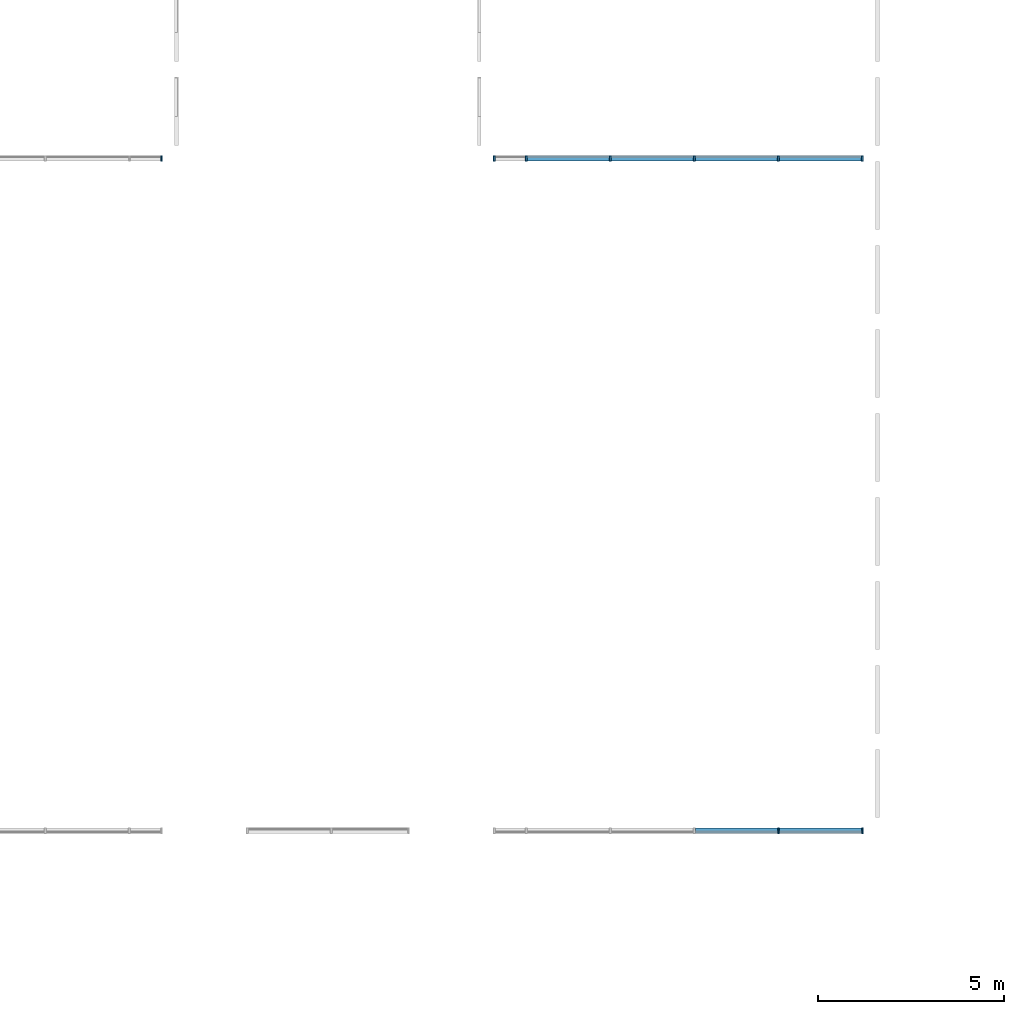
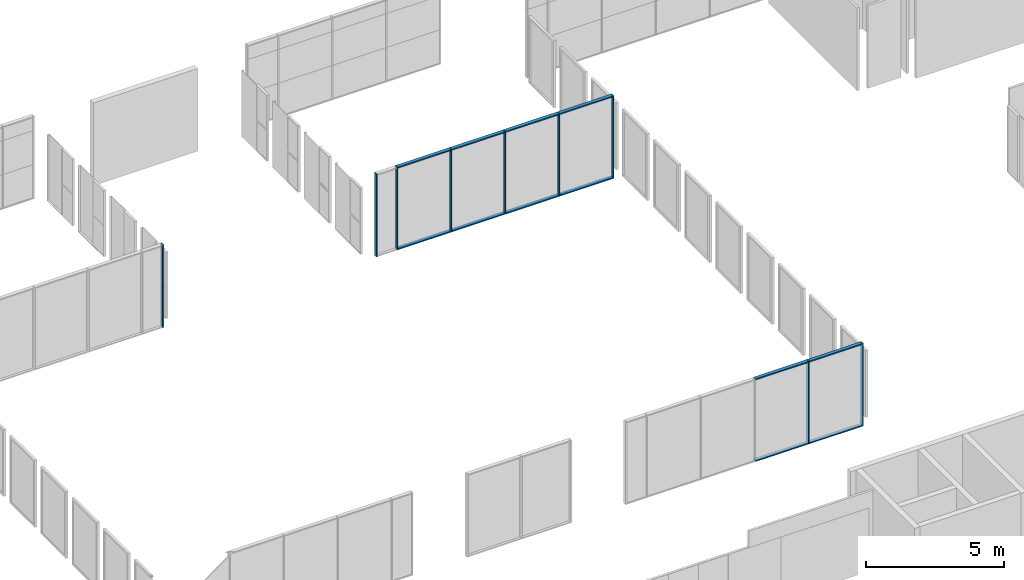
# One storey, part 2 of 15: 21 members, 3 elements without a shape of their own.
"""IFC2X3 building model written with IfcOpenShell, lengths in millimetres."""

from ifc_helpers import new_model, entity, si_unit, converted_unit, derived_unit, direction, frame, origin, origin_2d_with_axis, place, context, subcontext, project, spatial, rectangle, extrude, source, transform, mapped, material, type_object, type_shapes, element, aggregate, save


model = new_model("IFC2X3")

# Units and contexts
model_context = context("Model", 3, precision=0.01, world=origin(), true_north=direction((6.12303176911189e-17, 1.0)))
body_context = subcontext(model_context, "Body", "Model", "MODEL_VIEW")
ifc_project = project(units=[si_unit("LENGTHUNIT", "METRE", prefix="MILLI"), si_unit("AREAUNIT", "SQUARE_METRE"), si_unit("VOLUMEUNIT", "CUBIC_METRE"), converted_unit("PLANEANGLEUNIT", "DEGREE", entity("IfcRatioMeasure", 0.0174532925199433), si_unit("PLANEANGLEUNIT", "RADIAN"), dimensions=[0, 0, 0, 0, 0, 0, 0]), si_unit("MASSUNIT", "GRAM", prefix="KILO"), derived_unit("MASSDENSITYUNIT", [(si_unit("MASSUNIT", "GRAM", prefix="KILO"), 1), (si_unit("LENGTHUNIT", "METRE"), -3)]), derived_unit("MOMENTOFINERTIAUNIT", [(si_unit("LENGTHUNIT", "METRE"), 4)]), si_unit("TIMEUNIT", "SECOND"), si_unit("FREQUENCYUNIT", "HERTZ"), si_unit("THERMODYNAMICTEMPERATUREUNIT", "DEGREE_CELSIUS"), derived_unit("THERMALTRANSMITTANCEUNIT", [(si_unit("MASSUNIT", "GRAM", prefix="KILO"), 1), (si_unit("THERMODYNAMICTEMPERATUREUNIT", "KELVIN"), -1), (si_unit("TIMEUNIT", "SECOND"), -3)]), derived_unit("VOLUMETRICFLOWRATEUNIT", [(si_unit("LENGTHUNIT", "METRE"), 3), (si_unit("TIMEUNIT", "SECOND"), -1)]), si_unit("ELECTRICCURRENTUNIT", "AMPERE"), si_unit("ELECTRICVOLTAGEUNIT", "VOLT"), si_unit("POWERUNIT", "WATT"), si_unit("FORCEUNIT", "NEWTON", prefix="KILO"), si_unit("ILLUMINANCEUNIT", "LUX"), si_unit("LUMINOUSFLUXUNIT", "LUMEN"), si_unit("LUMINOUSINTENSITYUNIT", "CANDELA"), derived_unit("USERDEFINED", [(si_unit("MASSUNIT", "GRAM", prefix="KILO"), -1), (si_unit("LENGTHUNIT", "METRE"), -2), (si_unit("TIMEUNIT", "SECOND"), 3), (si_unit("LUMINOUSFLUXUNIT", "LUMEN"), 1)]), derived_unit("LINEARVELOCITYUNIT", [(si_unit("LENGTHUNIT", "METRE"), 1), (si_unit("TIMEUNIT", "SECOND"), -1)]), si_unit("PRESSUREUNIT", "PASCAL"), derived_unit("USERDEFINED", [(si_unit("LENGTHUNIT", "METRE"), -2), (si_unit("MASSUNIT", "GRAM", prefix="KILO"), 1), (si_unit("TIMEUNIT", "SECOND"), -2)]), derived_unit("LINEARFORCEUNIT", [(si_unit("MASSUNIT", "GRAM", prefix="KILO"), 1), (si_unit("LENGTHUNIT", "METRE"), 1), (si_unit("TIMEUNIT", "SECOND"), -2), (si_unit("LENGTHUNIT", "METRE"), -1)]), derived_unit("PLANARFORCEUNIT", [(si_unit("MASSUNIT", "GRAM", prefix="KILO"), 1), (si_unit("LENGTHUNIT", "METRE"), 1), (si_unit("TIMEUNIT", "SECOND"), -2), (si_unit("LENGTHUNIT", "METRE"), -2)])], contexts=[model_context])

# Site, building, storey
site_placement = place(None, frame((10627.5135316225, 21939.0796949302, 0.0)))
site = spatial("IfcSite", under=ifc_project, at=site_placement, Name="Default", CompositionType="ELEMENT")
building_placement = place(site_placement, origin())
building = spatial("IfcBuilding", under=site, at=building_placement, CompositionType="ELEMENT")
storey_placement = place(building_placement, origin())
storey = spatial("IfcBuildingStorey", under=building, at=storey_placement, Name="RDC", CompositionType="ELEMENT", Elevation=0.0)

# Curtain wall, members
curtain_wall_type_1 = type_object("IfcCurtainWallType", Name="Curtain Wall:Curtain_Wall-Empty 2", PredefinedType="NOTDEFINED")
curtain_wall_1_placement = place(storey_placement, origin())
curtain_wall_1 = element("IfcCurtainWall", 1, at=curtain_wall_1_placement, inside=storey, type_object=curtain_wall_type_1, Name="Curtain Wall:Curtain_Wall-Empty 2", ObjectType="Curtain Wall:Curtain_Wall-Empty 2")
ifc_material = material(Name="Aluminium")
member_type_1 = type_object("IfcMemberType", Name="Rectangular Mullion:50x150mm", PredefinedType="MULLION", material=ifc_material)
shared_shape_1 = source(origin(), body_context, "Body", "SweptSolid", [
    extrude(rectangle(XDim=150.0, YDim=50.0, at=origin_2d_with_axis()), frame((-25.0, 0.0, -2210.0), z_axis=(0.0, 0.0, 1.0), x_axis=(0.0, -1.0, 0.0)), (0.0, 0.0, 1.0), 2210.0000003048),
])
type_shapes(member_type_1, [shared_shape_1])
member_1_placement = place(storey_placement, frame((38719.4864680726, -10774.0796949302, 3660.0), z_axis=(-1.0, 0.0, 0.0), x_axis=(0.0, 0.0, 1.0)))
member_1 = element("IfcMember", 2, at=member_1_placement, type_object=member_type_1, material=ifc_material, Name="Rectangular Mullion:50x150mm", ObjectType="Rectangular Mullion:50x150mm", context=body_context, shape_type="MappedRepresentation", body=[
    mapped(shared_shape_1, transform((0.0, 0.0, 0.0), scale=1.0)),
])
member_2_placement = place(storey_placement, frame((36459.4864680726, -10774.0796949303, 3660.0), z_axis=(-1.0, 0.0, 0.0), x_axis=(0.0, 0.0, 1.0)))
member_2 = element("IfcMember", 3, at=member_2_placement, type_object=member_type_1, material=ifc_material, Name="Rectangular Mullion:50x150mm", ObjectType="Rectangular Mullion:50x150mm", context=body_context, shape_type="MappedRepresentation", body=[
    mapped(shared_shape_1, transform((0.0, 0.0, 0.0), scale=1.0)),
])
member_type_2 = type_object("IfcMemberType", Name="Rectangular Mullion:50x150mm", PredefinedType="MULLION", material=ifc_material)
shared_shape_2 = source(origin(), body_context, "Body", "SweptSolid", [
    extrude(rectangle(XDim=150.0, YDim=50.0, at=origin_2d_with_axis()), frame((-25.0, 0.0, -2210.0), z_axis=(0.0, 0.0, 1.0), x_axis=(0.0, -1.0, 0.0)), (0.0, 0.0, 1.0), 2210.0000003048),
])
type_shapes(member_type_2, [shared_shape_2])
member_3_placement = place(storey_placement, frame((40929.4864683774, -10774.0796949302, 0.0), z_axis=(1.0, 0.0, 0.0), x_axis=(0.0, 0.0, -1.0)))
member_3 = element("IfcMember", 4, at=member_3_placement, type_object=member_type_2, material=ifc_material, Name="Rectangular Mullion:50x150mm", ObjectType="Rectangular Mullion:50x150mm", context=body_context, shape_type="MappedRepresentation", body=[
    mapped(shared_shape_2, transform((0.0, 0.0, 0.0), scale=1.0)),
])
member_4_placement = place(storey_placement, frame((38669.4864680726, -10774.0796949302, 0.0), z_axis=(1.0, 0.0, 0.0), x_axis=(0.0, 0.0, -1.0)))
member_4 = element("IfcMember", 5, at=member_4_placement, type_object=member_type_2, material=ifc_material, Name="Rectangular Mullion:50x150mm", ObjectType="Rectangular Mullion:50x150mm", context=body_context, shape_type="MappedRepresentation", body=[
    mapped(shared_shape_2, transform((0.0, 0.0, 0.0), scale=1.0)),
])

curtain_wall_type_2 = type_object("IfcCurtainWallType", Name="Curtain Wall:Curtain_Wall-Empty", PredefinedType="NOTDEFINED")
curtain_wall_2_placement = place(storey_placement, origin())
curtain_wall_2 = element("IfcCurtainWall", 6, at=curtain_wall_2_placement, inside=storey, type_object=curtain_wall_type_2, Name="Curtain Wall:Curtain_Wall-Empty", ObjectType="Curtain Wall:Curtain_Wall-Empty")
member_type_3 = type_object("IfcMemberType", Name="Rectangular Mullion:50x150mm", PredefinedType="MULLION", material=ifc_material)
shared_shape_3 = source(origin(), body_context, "Body", "SweptSolid", [
    extrude(rectangle(XDim=150.0, YDim=50.0, at=origin_2d_with_axis()), frame((-25.0, 0.0, -2210.0), z_axis=(0.0, 0.0, 1.0), x_axis=(0.0, -1.0, 0.0)), (0.0, 0.0, 1.0), 2210.0),
])
type_shapes(member_type_3, [shared_shape_3])
member_5_placement = place(storey_placement, frame((38717.4864680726, 7305.92030506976, 3660.0), z_axis=(-1.0, 0.0, 0.0), x_axis=(0.0, 0.0, 1.0)))
member_5 = element("IfcMember", 7, at=member_5_placement, type_object=member_type_3, material=ifc_material, Name="Rectangular Mullion:50x150mm", ObjectType="Rectangular Mullion:50x150mm", context=body_context, shape_type="MappedRepresentation", body=[
    mapped(shared_shape_3, transform((0.0, 0.0, 0.0), scale=1.0)),
])
member_6_placement = place(storey_placement, frame((36457.4864680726, 7305.92030506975, 3660.0), z_axis=(-1.0, 0.0, 0.0), x_axis=(0.0, 0.0, 1.0)))
member_6 = element("IfcMember", 8, at=member_6_placement, type_object=member_type_3, material=ifc_material, Name="Rectangular Mullion:50x150mm", ObjectType="Rectangular Mullion:50x150mm", context=body_context, shape_type="MappedRepresentation", body=[
    mapped(shared_shape_3, transform((0.0, 0.0, 0.0), scale=1.0)),
])
member_7_placement = place(storey_placement, frame((34197.4864680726, 7305.92030506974, 3660.0), z_axis=(-1.0, 0.0, 0.0), x_axis=(0.0, 0.0, 1.0)))
member_7 = element("IfcMember", 9, at=member_7_placement, type_object=member_type_3, material=ifc_material, Name="Rectangular Mullion:50x150mm", ObjectType="Rectangular Mullion:50x150mm", context=body_context, shape_type="MappedRepresentation", body=[
    mapped(shared_shape_3, transform((0.0, 0.0, 0.0), scale=1.0)),
])
member_8_placement = place(storey_placement, frame((31937.4864680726, 7305.92030506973, 3660.0), z_axis=(-1.0, 0.0, 0.0), x_axis=(0.0, 0.0, 1.0)))
member_8 = element("IfcMember", 10, at=member_8_placement, type_object=member_type_3, material=ifc_material, Name="Rectangular Mullion:50x150mm", ObjectType="Rectangular Mullion:50x150mm", context=body_context, shape_type="MappedRepresentation", body=[
    mapped(shared_shape_3, transform((0.0, 0.0, 0.0), scale=1.0)),
])

# Curtain wall, member
curtain_wall_3_placement = place(storey_placement, origin())
curtain_wall_3 = element("IfcCurtainWall", 11, at=curtain_wall_3_placement, inside=storey, type_object=curtain_wall_type_2, Name="Curtain Wall:Curtain_Wall-Empty", ObjectType="Curtain Wall:Curtain_Wall-Empty")
member_type_4 = type_object("IfcMemberType", Name="Rectangular Mullion:50x150mm", PredefinedType="MULLION", material=ifc_material)
shared_shape_4 = source(origin(), body_context, "Body", "SweptSolid", [
    extrude(rectangle(XDim=150.0, YDim=50.0, at=origin_2d_with_axis()), frame((-25.0, 0.0, -3660.0), z_axis=(0.0, 0.0, 1.0), x_axis=(0.0, -1.0, 0.0)), (0.0, 0.0, 1.0), 3660.0),
])
type_shapes(member_type_4, [shared_shape_4])
member_9_placement = place(storey_placement, frame((22129.4864683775, 7305.92030506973, 0.0), z_axis=(0.0, 0.0, -1.0), x_axis=(1.0, 0.0, 0.0)))
member_9 = element("IfcMember", 12, at=member_9_placement, type_object=member_type_4, material=ifc_material, Name="Rectangular Mullion:50x150mm", ObjectType="Rectangular Mullion:50x150mm", context=body_context, shape_type="MappedRepresentation", body=[
    mapped(shared_shape_4, transform((0.0, 0.0, 0.0), scale=1.0)),
])
aggregate(curtain_wall_3, [member_9])

# Member
member_type_5 = type_object("IfcMemberType", Name="Rectangular Mullion:50x150mm", PredefinedType="MULLION", material=ifc_material)
shared_shape_5 = source(origin(), body_context, "Body", "SweptSolid", [
    extrude(rectangle(XDim=150.0, YDim=50.0, at=origin_2d_with_axis()), frame((-25.0, 0.0, -2210.0), z_axis=(0.0, 0.0, 1.0), x_axis=(0.0, -1.0, 0.0)), (0.0, 0.0, 1.0), 2210.0000003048),
])
type_shapes(member_type_5, [shared_shape_5])
member_10_placement = place(storey_placement, frame((40927.4864683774, 7305.92030506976, 0.0), z_axis=(1.0, 0.0, 0.0), x_axis=(0.0, 0.0, -1.0)))
member_10 = element("IfcMember", 13, at=member_10_placement, type_object=member_type_5, material=ifc_material, Name="Rectangular Mullion:50x150mm", ObjectType="Rectangular Mullion:50x150mm", context=body_context, shape_type="MappedRepresentation", body=[
    mapped(shared_shape_5, transform((0.0, 0.0, 0.0), scale=1.0)),
])

member_11_placement = place(storey_placement, frame((38667.4864680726, 7305.92030506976, 0.0), z_axis=(1.0, 0.0, 0.0), x_axis=(0.0, 0.0, -1.0)))
member_11 = element("IfcMember", 14, at=member_11_placement, type_object=member_type_5, material=ifc_material, Name="Rectangular Mullion:50x150mm", ObjectType="Rectangular Mullion:50x150mm", context=body_context, shape_type="MappedRepresentation", body=[
    mapped(shared_shape_5, transform((0.0, 0.0, 0.0), scale=1.0)),
])

member_12_placement = place(storey_placement, frame((36407.4864680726, 7305.92030506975, 0.0), z_axis=(1.0, 0.0, 0.0), x_axis=(0.0, 0.0, -1.0)))
member_12 = element("IfcMember", 15, at=member_12_placement, type_object=member_type_5, material=ifc_material, Name="Rectangular Mullion:50x150mm", ObjectType="Rectangular Mullion:50x150mm", context=body_context, shape_type="MappedRepresentation", body=[
    mapped(shared_shape_5, transform((0.0, 0.0, 0.0), scale=1.0)),
])

member_13_placement = place(storey_placement, frame((34147.4864680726, 7305.92030506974, 0.0), z_axis=(1.0, 0.0, 0.0), x_axis=(0.0, 0.0, -1.0)))
member_13 = element("IfcMember", 16, at=member_13_placement, type_object=member_type_5, material=ifc_material, Name="Rectangular Mullion:50x150mm", ObjectType="Rectangular Mullion:50x150mm", context=body_context, shape_type="MappedRepresentation", body=[
    mapped(shared_shape_5, transform((0.0, 0.0, 0.0), scale=1.0)),
])

member_type_6 = type_object("IfcMemberType", Name="Rectangular Mullion:50x150mm", PredefinedType="MULLION", material=ifc_material)
shared_shape_6 = source(origin(), body_context, "Body", "SweptSolid", [
    extrude(rectangle(XDim=150.0, YDim=50.0, at=origin_2d_with_axis()), frame((-25.0, 0.0, -3660.0), z_axis=(0.0, 0.0, 1.0), x_axis=(0.0, -1.0, 0.0)), (0.0, 0.0, 1.0), 3660.0),
])
type_shapes(member_type_6, [shared_shape_6])
member_14_placement = place(storey_placement, frame((31025.4864683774, 7305.92030506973, 0.0), z_axis=(0.0, 0.0, -1.0), x_axis=(-1.0, 0.0, 0.0)))
member_14 = element("IfcMember", 17, at=member_14_placement, type_object=member_type_6, material=ifc_material, Name="Rectangular Mullion:50x150mm", ObjectType="Rectangular Mullion:50x150mm", context=body_context, shape_type="MappedRepresentation", body=[
    mapped(shared_shape_6, transform((0.0, 0.0, 0.0), scale=1.0)),
])

member_type_7 = type_object("IfcMemberType", Name="Rectangular Mullion:50x150mm", PredefinedType="MULLION", material=ifc_material)
shared_shape_7 = source(origin(), body_context, "Body", "SweptSolid", [
    extrude(rectangle(XDim=150.0, YDim=50.0, at=origin_2d_with_axis()), frame((-25.0, 0.0, -3660.0), z_axis=(0.0, 0.0, 1.0), x_axis=(0.0, -1.0, 0.0)), (0.0, 0.0, 1.0), 3660.0),
])
type_shapes(member_type_7, [shared_shape_7])
member_15_placement = place(storey_placement, frame((40977.4864683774, 7305.92030506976, 3660.0)))
member_15 = element("IfcMember", 18, at=member_15_placement, type_object=member_type_7, material=ifc_material, Name="Rectangular Mullion:50x150mm", ObjectType="Rectangular Mullion:50x150mm", context=body_context, shape_type="MappedRepresentation", body=[
    mapped(shared_shape_7, transform((0.0, 0.0, 0.0), scale=1.0)),
])

member_type_8 = type_object("IfcMemberType", Name="Rectangular Mullion:50x150mm", PredefinedType="MULLION", material=ifc_material)
shared_shape_8 = source(origin(), body_context, "Body", "SweptSolid", [
    extrude(rectangle(XDim=150.0, YDim=50.0, at=origin_2d_with_axis()), frame((0.0, 0.0, -3660.0), z_axis=(0.0, 0.0, 1.0), x_axis=(0.0, -1.0, 0.0)), (0.0, 0.0, 1.0), 3660.0),
])
type_shapes(member_type_8, [shared_shape_8])
member_16_placement = place(storey_placement, frame((38692.4864680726, 7305.92030506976, 0.0), z_axis=(0.0, 0.0, -1.0), x_axis=(-1.0, 0.0, 0.0)))
member_16 = element("IfcMember", 19, at=member_16_placement, type_object=member_type_8, material=ifc_material, Name="Rectangular Mullion:50x150mm", ObjectType="Rectangular Mullion:50x150mm", context=body_context, shape_type="MappedRepresentation", body=[
    mapped(shared_shape_8, transform((0.0, 0.0, 0.0), scale=1.0)),
])

member_17_placement = place(storey_placement, frame((36432.4864680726, 7305.92030506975, 0.0), z_axis=(0.0, 0.0, -1.0), x_axis=(-1.0, 0.0, 0.0)))
member_17 = element("IfcMember", 20, at=member_17_placement, type_object=member_type_8, material=ifc_material, Name="Rectangular Mullion:50x150mm", ObjectType="Rectangular Mullion:50x150mm", context=body_context, shape_type="MappedRepresentation", body=[
    mapped(shared_shape_8, transform((0.0, 0.0, 0.0), scale=1.0)),
])

member_18_placement = place(storey_placement, frame((34172.4864680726, 7305.92030506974, 0.0), z_axis=(0.0, 0.0, -1.0), x_axis=(-1.0, 0.0, 0.0)))
member_18 = element("IfcMember", 21, at=member_18_placement, type_object=member_type_8, material=ifc_material, Name="Rectangular Mullion:50x150mm", ObjectType="Rectangular Mullion:50x150mm", context=body_context, shape_type="MappedRepresentation", body=[
    mapped(shared_shape_8, transform((0.0, 0.0, 0.0), scale=1.0)),
])

member_19_placement = place(storey_placement, frame((31912.4864680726, 7305.92030506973, 0.0), z_axis=(0.0, 0.0, -1.0), x_axis=(-1.0, 0.0, 0.0)))
member_19 = element("IfcMember", 22, at=member_19_placement, type_object=member_type_8, material=ifc_material, Name="Rectangular Mullion:50x150mm", ObjectType="Rectangular Mullion:50x150mm", context=body_context, shape_type="MappedRepresentation", body=[
    mapped(shared_shape_8, transform((0.0, 0.0, 0.0), scale=1.0)),
])

aggregate(curtain_wall_2, [member_5, member_6, member_7, member_8, member_10, member_11, member_12, member_13, member_14, member_15, member_16, member_17, member_18, member_19])

member_type_9 = type_object("IfcMemberType", Name="Rectangular Mullion:50x150mm", PredefinedType="MULLION", material=ifc_material)
shared_shape_9 = source(origin(), body_context, "Body", "SweptSolid", [
    extrude(rectangle(XDim=150.0, YDim=50.0, at=origin_2d_with_axis()), frame((-25.0, 0.0, -3660.0), z_axis=(0.0, 0.0, 1.0), x_axis=(0.0, -1.0, 0.0)), (0.0, 0.0, 1.0), 3660.0),
])
type_shapes(member_type_9, [shared_shape_9])
member_20_placement = place(storey_placement, frame((40979.4864683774, -10774.0796949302, 3660.0)))
member_20 = element("IfcMember", 23, at=member_20_placement, type_object=member_type_9, material=ifc_material, Name="Rectangular Mullion:50x150mm", ObjectType="Rectangular Mullion:50x150mm", context=body_context, shape_type="MappedRepresentation", body=[
    mapped(shared_shape_9, transform((0.0, 0.0, 0.0), scale=1.0)),
])

member_type_10 = type_object("IfcMemberType", Name="Rectangular Mullion:50x150mm", PredefinedType="MULLION", material=ifc_material)
shared_shape_10 = source(origin(), body_context, "Body", "SweptSolid", [
    extrude(rectangle(XDim=150.0, YDim=50.0, at=origin_2d_with_axis()), frame((0.0, 0.0, -3660.0), z_axis=(0.0, 0.0, 1.0), x_axis=(0.0, -1.0, 0.0)), (0.0, 0.0, 1.0), 3660.0),
])
type_shapes(member_type_10, [shared_shape_10])
member_21_placement = place(storey_placement, frame((38694.4864680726, -10774.0796949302, 0.0), z_axis=(0.0, 0.0, -1.0), x_axis=(-1.0, 0.0, 0.0)))
member_21 = element("IfcMember", 24, at=member_21_placement, type_object=member_type_10, material=ifc_material, Name="Rectangular Mullion:50x150mm", ObjectType="Rectangular Mullion:50x150mm", context=body_context, shape_type="MappedRepresentation", body=[
    mapped(shared_shape_10, transform((0.0, 0.0, 0.0), scale=1.0)),
])

aggregate(curtain_wall_1, [member_1, member_2, member_3, member_4, member_20, member_21])

save(model, "model.ifc")
